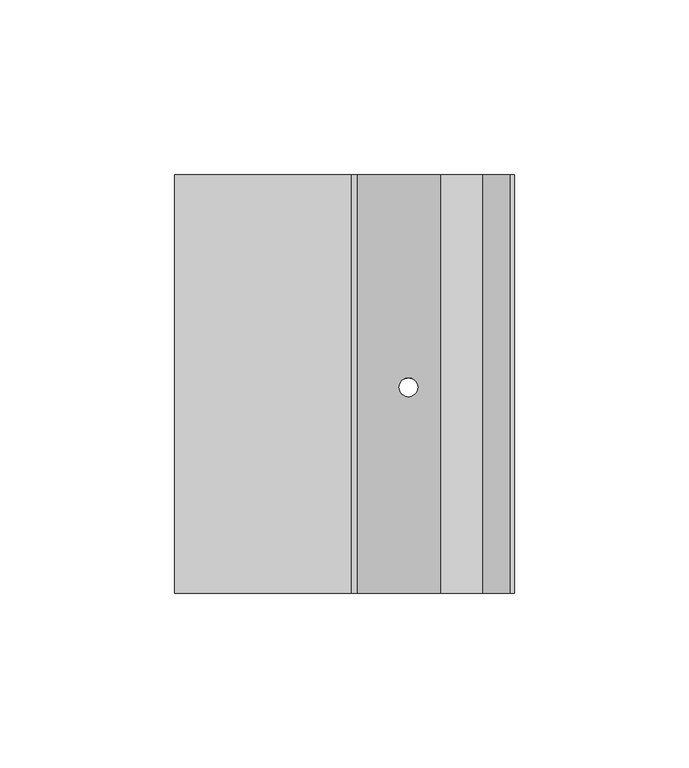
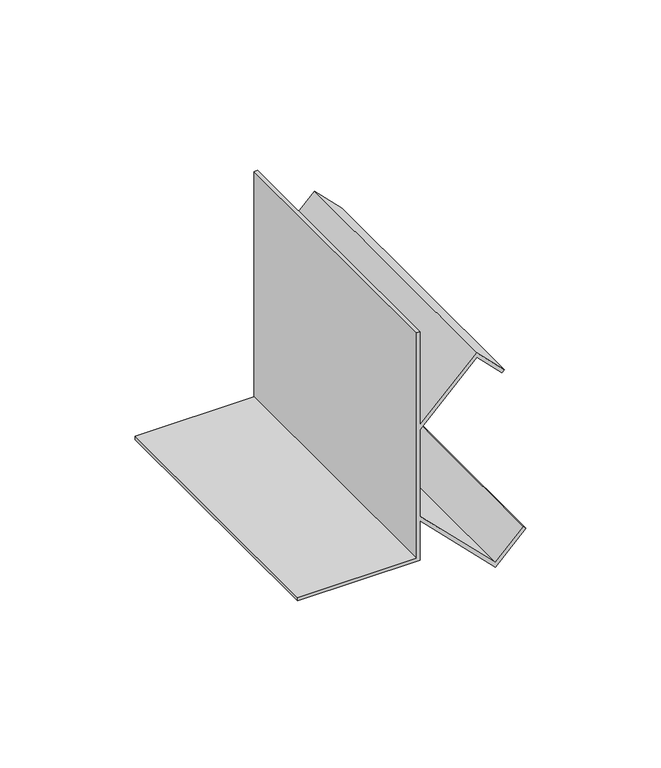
"""IFC4 building model written with IfcOpenShell, lengths in millimetres: proxy geometry, Mechanical Fittings & Accessories2 : Mechanical Fittings & Accessories."""

from ifc_helpers import new_model, si_unit, frame, origin, place, context, project, spatial, polyline, ellipse_curve, source, transform, mapped, element, save
from ifc_brep_helpers import plane_surface, revolved_surface, advanced_brep


def generic_models_2637090a(model_context):
    return source(origin(), model_context, "Body", "AdvancedBrep", [
        advanced_brep(
        [(-10977.7433312, 3322.4963986, 4114.8), (-11028.5433312, 3322.4963986, 4114.8), (-11028.5433312, 3322.4963986, 4113.3117188), (-10976.25505, 3322.4963986, 4113.3117188), (-10976.25505, 3322.4963986, 4131.1383509), (-10944.145289, 3322.4963986, 4099.0285899), (-10931.1663177, 3322.4963986, 4112.0075612), (-10932.2186914, 3322.4963986, 4113.059935), (-10944.145289, 3322.4963986, 4101.1333374), (-10976.25505, 3322.4963986, 4133.2430984), (-10976.25505, 3322.4963986, 4172.2761118), (-10952.082789, 3322.4963986, 4196.4483729), (-10941.3468164, 3322.4963986, 4185.7124003), (-10940.2944427, 3322.4963986, 4186.7647741), (-10952.082789, 3322.4963986, 4198.5531204), (-10976.25505, 3322.4963986, 4174.3808594), (-10976.25505, 3322.4963986, 4216.4), (-10977.7433312, 3322.4963986, 4216.4), (-10977.7433312, 3442.4645457, 4114.8), (-10977.7433312, 3442.4645457, 4216.4), (-10976.25505, 3442.4645457, 4216.4), (-10976.25505, 3442.4645457, 4174.3808594), (-10952.082789, 3442.4645457, 4198.5531204), (-10940.2944427, 3442.4645457, 4186.7647741), (-10941.3468164, 3442.4645457, 4185.7124003), (-10952.082789, 3442.4645457, 4196.4483729), (-10976.25505, 3442.4645457, 4172.2761118), (-10976.25505, 3442.4645457, 4133.2430984), (-10944.145289, 3442.4645457, 4101.1333374), (-10932.2186914, 3442.4645457, 4113.059935), (-10931.1663177, 3442.4645457, 4112.0075612), (-10944.145289, 3442.4645457, 4099.0285899), (-10976.25505, 3442.4645457, 4131.1383509), (-10976.25505, 3442.4645457, 4113.3117188), (-11028.5433312, 3442.4645457, 4113.3117188), (-11028.5433312, 3442.4645457, 4114.8), (-10964.1411396, 3381.5191481, 4119.0244406), (-10958.8017728, 3381.5191481, 4113.6850737), (-10958.8017728, 3381.5191481, 4115.7898213), (-10964.1411396, 3381.5191481, 4121.1291881), (-10964.1411396, 3381.5191481, 4184.3900222), (-10958.8017728, 3381.5191481, 4189.729389), (-10958.8017728, 3381.5191481, 4191.8341365), (-10964.1411396, 3381.5191481, 4186.4947697)],
        [
            (0, 1),
            (1, 2),
            (2, 3),
            (3, 4),
            (4, 5),
            (5, 6),
            (6, 7),
            (7, 8),
            (8, 9),
            (9, 10),
            (10, 11),
            (11, 12),
            (12, 13),
            (13, 14),
            (14, 15),
            (15, 16),
            (16, 17),
            (17, 0),
            (18, 19),
            (19, 20),
            (20, 21),
            (21, 22),
            (22, 23),
            (23, 24),
            (24, 25),
            (25, 26),
            (26, 27),
            (27, 28),
            (28, 29),
            (29, 30),
            (30, 31),
            (31, 32),
            (32, 33),
            (33, 34),
            (34, 35),
            (35, 18),
            (0, 18),
            (35, 1),
            (34, 2),
            (33, 3),
            (32, 4),
            (31, 5),
            (36, 37, ellipse_curve(frame((-10961.4714562, 3381.5191481, 4116.3547571), z_axis=(0.7071067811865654, 0.0, 0.7071067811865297), x_axis=(-0.7071067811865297, 0.0, 0.7071067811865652)), 3.7755025, 2.6696834)),
            (37, 36, ellipse_curve(frame((-10961.4714562, 3381.5191481, 4116.3547571), z_axis=(0.7071067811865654, 0.0, 0.7071067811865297), x_axis=(-0.7071067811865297, 0.0, 0.7071067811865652)), 3.7755025, 2.6696834)),
            (30, 6),
            (29, 7),
            (28, 8),
            (27, 9),
            (38, 39, ellipse_curve(frame((-10961.4714562, 3381.5191481, 4118.4595047), z_axis=(-0.7071067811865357, 0.0, -0.7071067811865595), x_axis=(-0.7071067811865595, 0.0, 0.7071067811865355)), 3.7755025, 2.6696834)),
            (39, 38, ellipse_curve(frame((-10961.4714562, 3381.5191481, 4118.4595047), z_axis=(-0.7071067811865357, 0.0, -0.7071067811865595), x_axis=(-0.7071067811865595, 0.0, 0.7071067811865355)), 3.7755025, 2.6696834)),
            (26, 10),
            (25, 11),
            (40, 41, ellipse_curve(frame((-10961.4714562, 3381.5191481, 4187.0597056), z_axis=(-0.7071067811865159, 0.0, 0.7071067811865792), x_axis=(0.7071067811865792, 0.0, 0.7071067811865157)), 3.7755025, 2.6696834)),
            (41, 40, ellipse_curve(frame((-10961.4714562, 3381.5191481, 4187.0597056), z_axis=(-0.7071067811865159, 0.0, 0.7071067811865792), x_axis=(0.7071067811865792, 0.0, 0.7071067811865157)), 3.7755025, 2.6696834)),
            (24, 12),
            (23, 13),
            (22, 14),
            (21, 15),
            (42, 43, ellipse_curve(frame((-10961.4714562, 3381.5191481, 4189.1644531), z_axis=(0.7071067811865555, 0.0, -0.7071067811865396), x_axis=(0.7071067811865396, 0.0, 0.7071067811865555)), 3.7755025, 2.6696834)),
            (43, 42, ellipse_curve(frame((-10961.4714562, 3381.5191481, 4189.1644531), z_axis=(0.7071067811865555, 0.0, -0.7071067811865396), x_axis=(0.7071067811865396, 0.0, 0.7071067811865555)), 3.7755025, 2.6696834)),
            (20, 16),
            (19, 17),
            (36, 39),
            (38, 37),
            (40, 43),
            (42, 41),
        ],
        [
            plane_surface(frame((-11028.5433312, 3322.4963986, 4114.8), z_axis=(0.0, -1.0, 0.0), x_axis=(-1.0, 0.0, 0.0))),
            plane_surface(frame((-11028.5433312, 3442.4645457, 4114.8), z_axis=(0.0, 1.0, 0.0), x_axis=(1.0, 0.0, 0.0))),
            plane_surface(frame((-10977.7433312, 3322.4963986, 4114.8), z_axis=(0.0, 0.0, 1.0), x_axis=(0.0, 1.0, 0.0))),
            plane_surface(frame((-11028.5433312, 3322.4963986, 4114.8), z_axis=(-1.0, 0.0, 0.0), x_axis=(0.0, 1.0, 0.0))),
            plane_surface(frame((-11028.5433312, 3322.4963986, 4113.3117188), z_axis=(0.0, 0.0, -1.0), x_axis=(0.0, 1.0, 0.0))),
            plane_surface(frame((-10976.25505, 3322.4963986, 4113.3117188), z_axis=(1.0, 0.0, 0.0), x_axis=(0.0, 1.0, 0.0))),
            plane_surface(frame((-10976.25505, 3322.4963986, 4131.1383509), z_axis=(-0.7071067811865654, 0.0, -0.7071067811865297), x_axis=(0.0, 1.0, 0.0))),
            plane_surface(frame((-10944.145289, 3322.4963986, 4099.0285899), z_axis=(0.7071067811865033, 0.0, -0.7071067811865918), x_axis=(0.0, 1.0, 0.0))),
            plane_surface(frame((-10931.1663177, 3322.4963986, 4112.0075612), z_axis=(0.7071067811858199, 0.0, 0.7071067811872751), x_axis=(0.0, 1.0, 0.0))),
            plane_surface(frame((-10932.2186914, 3322.4963986, 4113.059935), z_axis=(-0.7071067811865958, 0.0, 0.7071067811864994), x_axis=(0.0, 1.0, 0.0))),
            plane_surface(frame((-10944.145289, 3322.4963986, 4101.1333374), z_axis=(0.7071067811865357, 0.0, 0.7071067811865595), x_axis=(0.0, 1.0, 0.0))),
            plane_surface(frame((-10976.25505, 3322.4963986, 4133.2430984), z_axis=(1.0, 0.0, 0.0), x_axis=(0.0, 1.0, 0.0))),
            plane_surface(frame((-10976.25505, 3322.4963986, 4172.2761118), z_axis=(0.7071067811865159, 0.0, -0.7071067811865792), x_axis=(0.0, 1.0, 0.0))),
            plane_surface(frame((-10952.082789, 3322.4963986, 4196.4483729), z_axis=(-0.7071067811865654, 0.0, -0.7071067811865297), x_axis=(0.0, 1.0, 0.0))),
            plane_surface(frame((-10941.3468164, 3322.4963986, 4185.7124003), z_axis=(0.7071067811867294, 0.0, -0.7071067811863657), x_axis=(0.0, 1.0, 0.0))),
            plane_surface(frame((-10940.2944427, 3322.4963986, 4186.7647741), z_axis=(0.7071067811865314, 0.0, 0.7071067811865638), x_axis=(0.0, 1.0, 0.0))),
            plane_surface(frame((-10952.082789, 3322.4963986, 4198.5531204), z_axis=(-0.7071067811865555, 0.0, 0.7071067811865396), x_axis=(0.0, 1.0, 0.0))),
            plane_surface(frame((-10976.25505, 3322.4963986, 4174.3808594), z_axis=(1.0, 0.0, 0.0), x_axis=(0.0, 1.0, 0.0))),
            plane_surface(frame((-10976.25505, 3322.4963986, 4216.4), z_axis=(0.0, 0.0, 1.0), x_axis=(0.0, 1.0, 0.0))),
            plane_surface(frame((-10977.7433312, 3322.4963986, 4216.4), z_axis=(-1.0, 0.0, 0.0), x_axis=(0.0, 1.0, 0.0))),
            revolved_surface(polyline([(-10958.801772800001, 3381.5191481, 4121.129188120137), (-10958.801772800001, 3381.5191481, 4113.685073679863)]), (-10961.4714562, 3381.5191481, 4097.2034211), (0.0, 0.0, 1.0)),
            revolved_surface(polyline([(-10958.801772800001, 3381.5191481, 4191.834136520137), (-10958.801772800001, 3381.5191481, 4184.390022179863)]), (-10961.4714562, 3381.5191481, 4097.2034211), (0.0, 0.0, 1.0)),
        ],
        [
            (0, [[1, 2, 3, 4, 5, 6, 7, 8, 9, 10, 11, 12, 13, 14, 15, 16, 17, 18]]),
            (1, [[19, 20, 21, 22, 23, 24, 25, 26, 27, 28, 29, 30, 31, 32, 33, 34, 35, 36]]),
            (2, [[-1, 37, -36, 38]]),
            (3, [[-2, -38, -35, 39]]),
            (4, [[-3, -39, -34, 40]]),
            (5, [[-4, -40, -33, 41]]),
            (6, [[-5, -41, -32, 42], [43, 44]]),
            (7, [[-6, -42, -31, 45]]),
            (8, [[-7, -45, -30, 46]]),
            (9, [[-8, -46, -29, 47]]),
            (10, [[-9, -47, -28, 48], [49, 50]]),
            (11, [[-10, -48, -27, 51]]),
            (12, [[-11, -51, -26, 52], [53, 54]]),
            (13, [[-12, -52, -25, 55]]),
            (14, [[-13, -55, -24, 56]]),
            (15, [[-14, -56, -23, 57]]),
            (16, [[-15, -57, -22, 58], [59, 60]]),
            (17, [[-16, -58, -21, 61]]),
            (18, [[-17, -61, -20, 62]]),
            (19, [[-18, -62, -19, -37]]),
            (20, [[63, -49, 64, -43]]),
            (21, [[65, -59, 66, -53]]),
            (20, [[-63, -44, -64, -50]]),
            (21, [[-65, -54, -66, -60]]),
        ],
    ),
    ])


if __name__ == "__main__":
    model = new_model("IFC4")
    model_context = context("Model", 3, world=origin())
    ifc_project = project(units=[si_unit("LENGTHUNIT", "METRE", prefix="MILLI")], contexts=[model_context])
    site = spatial("IfcSite", under=ifc_project)
    building = spatial("IfcBuilding", under=site)
    placement = place(None, origin())
    generic_models_shape = generic_models_2637090a(model_context)
    element("IfcBuildingElementProxy", 1, Name="Mechanical Fittings & Accessories2 : Mechanical Fittings & Accessories", ObjectType="Mechanical Fittings & Accessories2 : Mechanical Fittings & Accessories", at=placement, inside=building, context=model_context, shape_type="MappedRepresentation", body=[
        mapped(generic_models_shape, transform((0.0, 0.0, 0.0), x_axis=(1.0, 0.0, 0.0), y_axis=(0.0, 1.0, 0.0), z_axis=(0.0, 0.0, 1.0))),
    ])
    save(model, "model.ifc")
